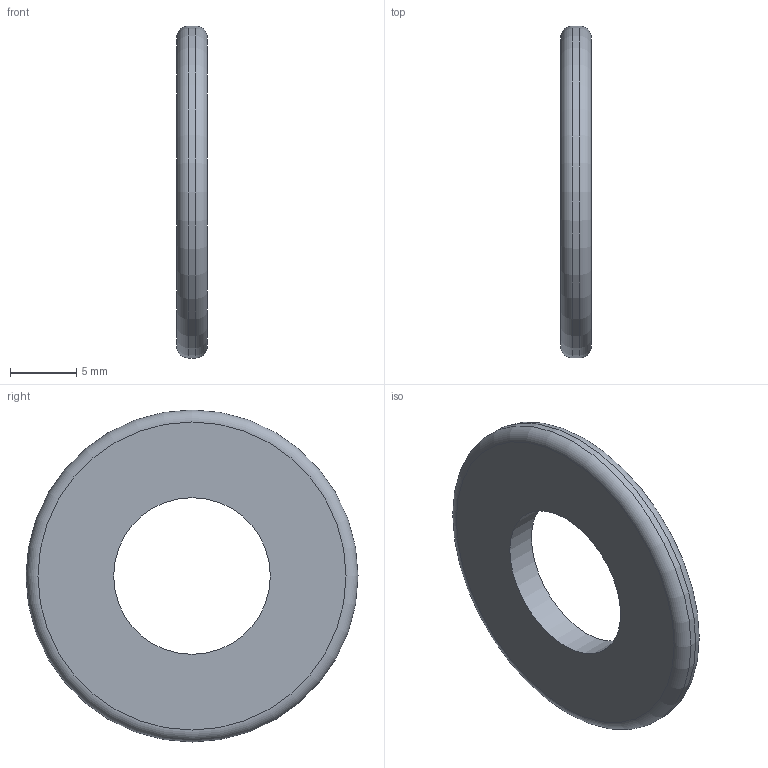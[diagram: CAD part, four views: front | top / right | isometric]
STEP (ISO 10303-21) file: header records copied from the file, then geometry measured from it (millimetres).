
FILE_DESCRIPTION(('Open CASCADE Model'),'2;1');
FILE_NAME('Open CASCADE Shape Model','2026-11-11T21:47:34',('Author'),( 'Open CASCADE'),'Open CASCADE STEP processor 8.0','build123d', 'Unknown');
FILE_SCHEMA(('AUTOMOTIVE_DESIGN { 1 0 10303 214 1 1 1 1 }'));
Length unit declared in the file: millimetre
Products named in the file (1): SOLID
Bounding box: 2.3 x 25 x 25 mm (x, y, z)
Volume: 850.6 mm3; surface area: 967.5 mm2
Topology: 1 solids, 1 shells, 6 faces, 10 edges, 6 vertices
Faces by surface type: cylinder 2, torus 2, plane 2
Full cylindrical faces by diameter (mm): 11.8 x1, 25 x1
Entity records: 286 total; most frequent: DIRECTION 48, CARTESIAN_POINT 47, ORIENTED_EDGE 20, PCURVE 20, DEFINITIONAL_REPRESENTATION 20, AXIS2_PLACEMENT_3D 15, LINE 14, VECTOR 14
